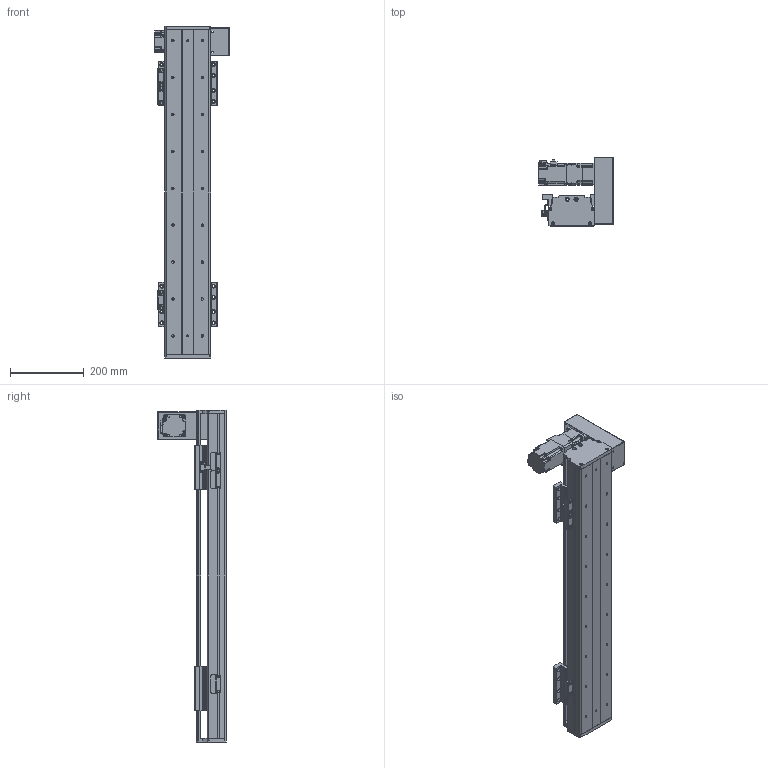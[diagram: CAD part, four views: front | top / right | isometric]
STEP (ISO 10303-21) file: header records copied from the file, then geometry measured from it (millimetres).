
FILE_DESCRIPTION(/* description */ (''),/* implementation_level */ '2;1');
FILE_NAME(/* name */ 'C:\Users\PC\Desktop\3D도면\STEP\DSB125-UR2G-W0600-L.stp',/* time_stamp */ '2018-06-19T16:51:12+09:00',/* author */ ('PC'),/* organization */ (''),/* preprocessor_version */ 'ST-DEVELOPER v16.5',/* originating_system */ 'Autodesk Inventor 2017',/* authorisation */ '');
FILE_SCHEMA (('AUTOMOTIVE_DESIGN { 1 0 10303 214 3 1 1 }'));
Length unit declared in the file: millimetre
Products named in the file (12): DSB125-UL2G-W0600-R_MIR; DSB125-BASE_MIR; DSB125-UP COVER_MIR; DSB125-FRONT COVER_MIR; DSB125-REAR COVER_MIR; hg-kr23__MIR; ab0601-p0401200402_MIR; 13-BELT COVER_MIR; DSR125-SENSOR DOG_MIR; SENSOR BRACKET(EE-SX674A)_MIR; pm-y65_step_MIR; DSB125-TABLE(MSB15S)_MIR
Assembly tree (16 placements, depth 2):
  DSB125-UL2G-W0600-R_MIR
    DSB125-BASE_MIR
    DSB125-UP COVER_MIR
    DSB125-FRONT COVER_MIR
    DSB125-REAR COVER_MIR
    hg-kr23__MIR
    ab0601-p0401200402_MIR
    13-BELT COVER_MIR
    DSR125-SENSOR DOG_MIR
    SENSOR BRACKET(EE-SX674A)_MIR  x3
    pm-y65_step_MIR  x3
    DSB125-TABLE(MSB15S)_MIR  x2
Bounding box: 202.1 x 187 x 900 mm (x, y, z)
Volume: 3697010.1 mm3; surface area: 1067230.5 mm2
Topology: 17 solids, 17 shells, 1647 faces, 4470 edges, 2948 vertices
Faces by surface type: plane 903, cylinder 624, cone 108, sphere 8, torus 4
Full cylindrical faces by diameter (mm): 2.459 x20, 3.242 x16, 3.5 x6, 4 x1, 4.134 x16, 4.2 x4, 4.3 x1, 4.5 x50, 4.917 x20, 5 x22, 5.3 x1, 5.5 x4, 5.6 x8, 5.8 x4, 5.9 x8, 6 x4, 6.6 x22, 6.647 x18, 7.5 x32, 8.5 x8, 8.7 x1, 11 x22, 14 x1, 16 x2, 17 x1, 20 x1, 47 x1, 50 x3
Entity records: 35717 total; most frequent: CARTESIAN_POINT 6447, DIRECTION 6058, ORIENTED_EDGE 5450, EDGE_CURVE 2725, AXIS2_PLACEMENT_3D 2217, VERTEX_POINT 1934, EDGE_LOOP 1645, LINE 1624
